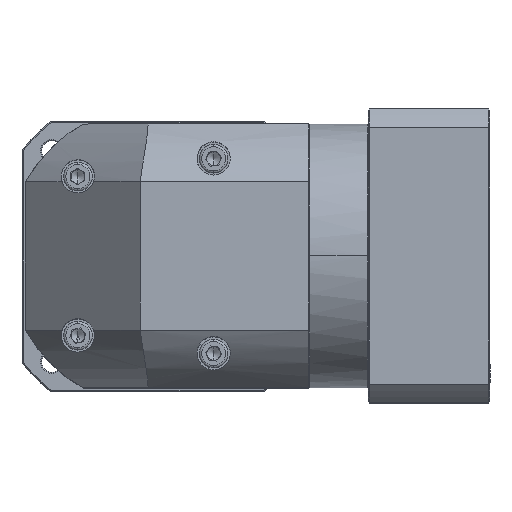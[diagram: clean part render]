
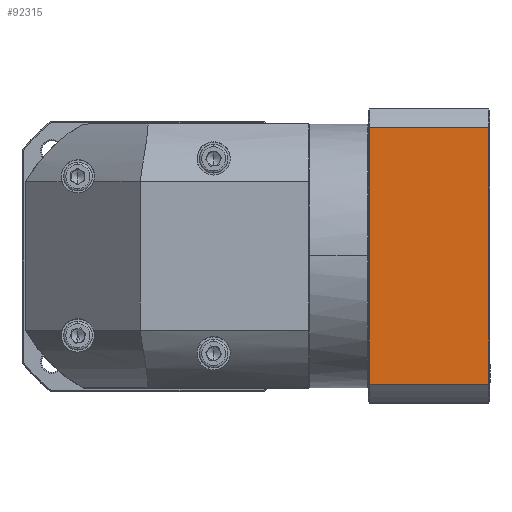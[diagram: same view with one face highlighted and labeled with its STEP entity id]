
A CAD part, top view. The second image highlights one B-rep face of the part: STEP entity #92315.
In plain terms, the highlighted planar face has unit normal (0, 0, 1).
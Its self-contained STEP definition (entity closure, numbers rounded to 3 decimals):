
#4597 = CARTESIAN_POINT ( 'NONE',  ( -106.086, 113.89, 76.137 ) ) ;
#5031 = DIRECTION ( 'NONE',  ( 1., 0., 0. ) ) ;
#8621 = CARTESIAN_POINT ( 'NONE',  ( 189.235, 121.953, 76.137 ) ) ;
#15429 = EDGE_CURVE ( 'NONE', #38647, #41903, #22149, .T. ) ;
#17008 = EDGE_CURVE ( 'NONE', #103971, #38647, #19656, .T. ) ;
#17911 = CARTESIAN_POINT ( 'NONE',  ( 189.735, 121.953, 76.137 ) ) ;
#19656 = LINE ( 'NONE', #114077, #43924 ) ;
#22149 = LINE ( 'NONE', #4597, #73906 ) ;
#29669 = VECTOR ( 'NONE', #117464, 1000. ) ;
#32931 = LINE ( 'NONE', #43788, #29669 ) ;
#38647 = VERTEX_POINT ( 'NONE', #55085 ) ;
#41903 = VERTEX_POINT ( 'NONE', #46957 ) ;
#43535 = VERTEX_POINT ( 'NONE', #96749 ) ;
#43788 = CARTESIAN_POINT ( 'NONE',  ( -106.086, 2.016, 76.137 ) ) ;
#43924 = VECTOR ( 'NONE', #114957, 1000. ) ;
#46957 = CARTESIAN_POINT ( 'NONE',  ( 189.235, 113.89, 76.137 ) ) ;
#54003 = ORIENTED_EDGE ( 'NONE', *, *, #79315, .F. ) ;
#55085 = CARTESIAN_POINT ( 'NONE',  ( 137.235, 113.89, 76.137 ) ) ;
#56111 = ORIENTED_EDGE ( 'NONE', *, *, #17008, .F. ) ;
#73886 = ORIENTED_EDGE ( 'NONE', *, *, #15429, .F. ) ;
#73906 = VECTOR ( 'NONE', #5031, 1000. ) ;
#79315 = EDGE_CURVE ( 'NONE', #43535, #103971, #32931, .T. ) ;
#90303 = DIRECTION ( 'NONE',  ( 0., -1., 0. ) ) ;
#92315 = ADVANCED_FACE ( 'NONE', ( #129235 ), #110165, .F. ) ;
#96749 = CARTESIAN_POINT ( 'NONE',  ( 189.235, 2.016, 76.137 ) ) ;
#97958 = VECTOR ( 'NONE', #113549, 1000. ) ;
#99203 = EDGE_CURVE ( 'NONE', #41903, #43535, #106023, .T. ) ;
#100154 = DIRECTION ( 'NONE',  ( 0., 0., -1. ) ) ;
#103971 = VERTEX_POINT ( 'NONE', #108542 ) ;
#106023 = LINE ( 'NONE', #8621, #97958 ) ;
#108542 = CARTESIAN_POINT ( 'NONE',  ( 137.235, 2.016, 76.137 ) ) ;
#110165 = PLANE ( 'NONE',  #123998 ) ;
#111012 = ORIENTED_EDGE ( 'NONE', *, *, #99203, .F. ) ;
#113549 = DIRECTION ( 'NONE',  ( 0., -1., 0. ) ) ;
#114077 = CARTESIAN_POINT ( 'NONE',  ( 137.235, 121.953, 76.137 ) ) ;
#114957 = DIRECTION ( 'NONE',  ( 0., 1., 0. ) ) ;
#117464 = DIRECTION ( 'NONE',  ( -1., 0., 0. ) ) ;
#123668 = EDGE_LOOP ( 'NONE', ( #73886, #56111, #54003, #111012 ) ) ;
#123998 = AXIS2_PLACEMENT_3D ( 'NONE', #17911, #100154, #90303 ) ;
#129235 = FACE_OUTER_BOUND ( 'NONE', #123668, .T. ) ;
